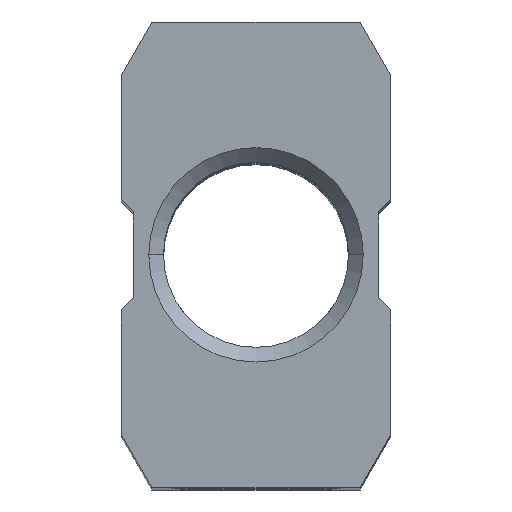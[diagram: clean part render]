
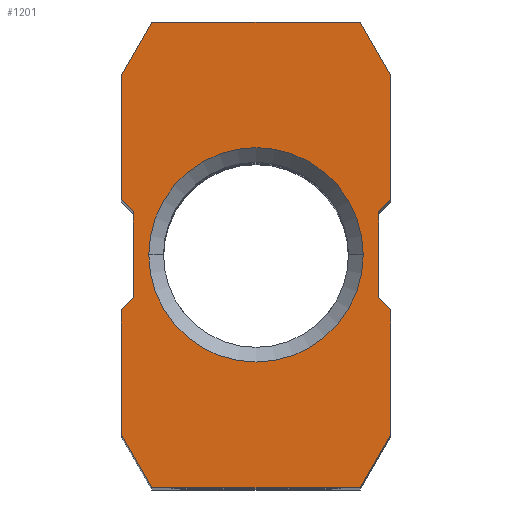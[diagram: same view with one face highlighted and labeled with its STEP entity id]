
A CAD part, top view. The second image highlights one B-rep face of the part: STEP entity #1201.
In plain terms, the highlighted planar face has unit normal (0, 0, 1).
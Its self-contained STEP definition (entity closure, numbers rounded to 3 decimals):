
#6 = AXIS2_PLACEMENT_3D ( 'NONE', #341, #1401, #2507 ) ;
#16 = VERTEX_POINT ( 'NONE', #40 ) ;
#28 = ORIENTED_EDGE ( 'NONE', *, *, #377, .T. ) ;
#30 = CARTESIAN_POINT ( 'NONE',  ( 11., 4.33, 0. ) ) ;
#40 = CARTESIAN_POINT ( 'NONE',  ( 8.5, 38., 0. ) ) ;
#42 = LINE ( 'NONE', #2384, #1710 ) ;
#55 = CARTESIAN_POINT ( 'NONE',  ( -11., 33.67, 0. ) ) ;
#73 = EDGE_CURVE ( 'NONE', #1665, #2037, #984, .T. ) ;
#80 = DIRECTION ( 'NONE',  ( -0.707, 0.707, 0. ) ) ;
#84 = CARTESIAN_POINT ( 'NONE',  ( -10., 15.5, 0. ) ) ;
#101 = DIRECTION ( 'NONE',  ( -0.5, -0.866, 0. ) ) ;
#110 = EDGE_CURVE ( 'NONE', #2386, #2072, #844, .T. ) ;
#150 = CARTESIAN_POINT ( 'NONE',  ( 11., 14.5, 0. ) ) ;
#183 = ORIENTED_EDGE ( 'NONE', *, *, #110, .T. ) ;
#300 = EDGE_CURVE ( 'NONE', #1704, #1965, #1661, .T. ) ;
#341 = CARTESIAN_POINT ( 'NONE',  ( 6.5, 19., 0. ) ) ;
#357 = EDGE_CURVE ( 'NONE', #694, #2620, #450, .T. ) ;
#369 = CARTESIAN_POINT ( 'NONE',  ( -11., 23.5, 0. ) ) ;
#377 = EDGE_CURVE ( 'NONE', #16, #1451, #381, .T. ) ;
#378 = DIRECTION ( 'NONE',  ( -1., 0., 0. ) ) ;
#381 = LINE ( 'NONE', #1022, #2112 ) ;
#382 = CARTESIAN_POINT ( 'NONE',  ( 10., 15.5, 0. ) ) ;
#385 = DIRECTION ( 'NONE',  ( 0., 1., 0. ) ) ;
#419 = VECTOR ( 'NONE', #1674, 1000. ) ;
#444 = CARTESIAN_POINT ( 'NONE',  ( -11., 4.33, 0. ) ) ;
#445 = EDGE_CURVE ( 'NONE', #1024, #2214, #1384, .T. ) ;
#450 = LINE ( 'NONE', #369, #2739 ) ;
#451 = CARTESIAN_POINT ( 'NONE',  ( -8.5, 38., 0. ) ) ;
#485 = LINE ( 'NONE', #1445, #419 ) ;
#525 = ORIENTED_EDGE ( 'NONE', *, *, #656, .T. ) ;
#590 = DIRECTION ( 'NONE',  ( 0., 1., 0. ) ) ;
#593 = AXIS2_PLACEMENT_3D ( 'NONE', #2309, #1004, #2527 ) ;
#627 = LINE ( 'NONE', #852, #1780 ) ;
#634 = ORIENTED_EDGE ( 'NONE', *, *, #357, .T. ) ;
#645 = CARTESIAN_POINT ( 'NONE',  ( -11., 23.5, 0. ) ) ;
#653 = FACE_OUTER_BOUND ( 'NONE', #876, .T. ) ;
#656 = EDGE_CURVE ( 'NONE', #2283, #1631, #1960, .T. ) ;
#694 = VERTEX_POINT ( 'NONE', #55 ) ;
#733 = CARTESIAN_POINT ( 'NONE',  ( -10., 15.5, 0. ) ) ;
#762 = VERTEX_POINT ( 'NONE', #1895 ) ;
#778 = CARTESIAN_POINT ( 'NONE',  ( -8.5, 0., 0. ) ) ;
#816 = ORIENTED_EDGE ( 'NONE', *, *, #1242, .T. ) ;
#830 = DIRECTION ( 'NONE',  ( 1., 0., 0. ) ) ;
#844 = LINE ( 'NONE', #733, #2079 ) ;
#852 = CARTESIAN_POINT ( 'NONE',  ( -11., 14.5, 0. ) ) ;
#871 = DIRECTION ( 'NONE',  ( -0.5, 0.866, 0. ) ) ;
#872 = CARTESIAN_POINT ( 'NONE',  ( 10., 22.5, 0. ) ) ;
#876 = EDGE_LOOP ( 'NONE', ( #2193, #2304, #2520, #28, #1653, #634, #879, #183, #1103, #2519, #525, #2800, #2486, #2189, #2095, #1365 ) ) ;
#879 = ORIENTED_EDGE ( 'NONE', *, *, #2186, .T. ) ;
#924 = VECTOR ( 'NONE', #101, 1000. ) ;
#984 = LINE ( 'NONE', #1600, #2146 ) ;
#995 = FACE_BOUND ( 'NONE', #2606, .T. ) ;
#1004 = DIRECTION ( 'NONE',  ( 0., 0., -1. ) ) ;
#1015 = EDGE_CURVE ( 'NONE', #1063, #1665, #2358, .T. ) ;
#1016 = VECTOR ( 'NONE', #385, 1000. ) ;
#1022 = CARTESIAN_POINT ( 'NONE',  ( 8.5, 38., 0. ) ) ;
#1024 = VERTEX_POINT ( 'NONE', #1110 ) ;
#1050 = CARTESIAN_POINT ( 'NONE',  ( -8.5, 0., 0. ) ) ;
#1063 = VERTEX_POINT ( 'NONE', #30 ) ;
#1077 = DIRECTION ( 'NONE',  ( 0.5, 0.866, 0. ) ) ;
#1103 = ORIENTED_EDGE ( 'NONE', *, *, #2267, .T. ) ;
#1110 = CARTESIAN_POINT ( 'NONE',  ( 11., 23.5, 0. ) ) ;
#1146 = CARTESIAN_POINT ( 'NONE',  ( 10., 22.5, 0. ) ) ;
#1154 = CIRCLE ( 'NONE', #593, 8.75 ) ;
#1156 = EDGE_CURVE ( 'NONE', #1451, #694, #1495, .T. ) ;
#1170 = CARTESIAN_POINT ( 'NONE',  ( 0., 19., 0. ) ) ;
#1183 = VECTOR ( 'NONE', #830, 1000. ) ;
#1201 = ADVANCED_FACE ( 'NONE', ( #995, #653 ), #2291, .T. ) ;
#1242 = EDGE_CURVE ( 'NONE', #1965, #1704, #1154, .T. ) ;
#1250 = DIRECTION ( 'NONE',  ( -0.707, -0.707, 0. ) ) ;
#1255 = LINE ( 'NONE', #1050, #1183 ) ;
#1272 = CARTESIAN_POINT ( 'NONE',  ( -11., 14.5, 0. ) ) ;
#1333 = VECTOR ( 'NONE', #1667, 1000. ) ;
#1357 = VECTOR ( 'NONE', #871, 1000. ) ;
#1365 = ORIENTED_EDGE ( 'NONE', *, *, #1690, .T. ) ;
#1368 = VECTOR ( 'NONE', #1979, 1000. ) ;
#1384 = LINE ( 'NONE', #2336, #1016 ) ;
#1385 = DIRECTION ( 'NONE',  ( 0., -1., 0. ) ) ;
#1396 = EDGE_CURVE ( 'NONE', #1631, #762, #1255, .T. ) ;
#1398 = DIRECTION ( 'NONE',  ( 1., 0., 0. ) ) ;
#1401 = DIRECTION ( 'NONE',  ( 0., 0., 1. ) ) ;
#1422 = VERTEX_POINT ( 'NONE', #1272 ) ;
#1445 = CARTESIAN_POINT ( 'NONE',  ( -11., 4.33, 0. ) ) ;
#1451 = VERTEX_POINT ( 'NONE', #451 ) ;
#1466 = EDGE_CURVE ( 'NONE', #2214, #16, #2016, .T. ) ;
#1495 = LINE ( 'NONE', #2061, #924 ) ;
#1560 = LINE ( 'NONE', #382, #2080 ) ;
#1600 = CARTESIAN_POINT ( 'NONE',  ( 11., 14.5, 0. ) ) ;
#1631 = VERTEX_POINT ( 'NONE', #778 ) ;
#1653 = ORIENTED_EDGE ( 'NONE', *, *, #1156, .T. ) ;
#1661 = CIRCLE ( 'NONE', #1929, 8.75 ) ;
#1665 = VERTEX_POINT ( 'NONE', #150 ) ;
#1667 = DIRECTION ( 'NONE',  ( 0.707, -0.707, 0. ) ) ;
#1674 = DIRECTION ( 'NONE',  ( 0., -1., 0. ) ) ;
#1689 = EDGE_CURVE ( 'NONE', #1422, #2283, #485, .T. ) ;
#1690 = EDGE_CURVE ( 'NONE', #2037, #2036, #1560, .T. ) ;
#1704 = VERTEX_POINT ( 'NONE', #2118 ) ;
#1710 = VECTOR ( 'NONE', #1077, 1000. ) ;
#1720 = ORIENTED_EDGE ( 'NONE', *, *, #300, .T. ) ;
#1762 = CARTESIAN_POINT ( 'NONE',  ( -10., 22.5, 0. ) ) ;
#1780 = VECTOR ( 'NONE', #1250, 1000. ) ;
#1895 = CARTESIAN_POINT ( 'NONE',  ( 8.5, 0., 0. ) ) ;
#1929 = AXIS2_PLACEMENT_3D ( 'NONE', #1170, #2693, #1398 ) ;
#1956 = DIRECTION ( 'NONE',  ( 0., 1., 0. ) ) ;
#1960 = LINE ( 'NONE', #2194, #1368 ) ;
#1965 = VERTEX_POINT ( 'NONE', #2453 ) ;
#1970 = CARTESIAN_POINT ( 'NONE',  ( 11., 33.67, 0. ) ) ;
#1979 = DIRECTION ( 'NONE',  ( 0.5, -0.866, 0. ) ) ;
#2016 = LINE ( 'NONE', #1970, #1357 ) ;
#2036 = VERTEX_POINT ( 'NONE', #1146 ) ;
#2037 = VERTEX_POINT ( 'NONE', #2042 ) ;
#2042 = CARTESIAN_POINT ( 'NONE',  ( 10., 15.5, 0. ) ) ;
#2061 = CARTESIAN_POINT ( 'NONE',  ( -11., 33.67, 0. ) ) ;
#2065 = LINE ( 'NONE', #872, #2629 ) ;
#2072 = VERTEX_POINT ( 'NONE', #84 ) ;
#2079 = VECTOR ( 'NONE', #1385, 1000. ) ;
#2080 = VECTOR ( 'NONE', #590, 1000. ) ;
#2095 = ORIENTED_EDGE ( 'NONE', *, *, #73, .T. ) ;
#2112 = VECTOR ( 'NONE', #378, 1000. ) ;
#2118 = CARTESIAN_POINT ( 'NONE',  ( 8.75, 19., 0. ) ) ;
#2122 = CARTESIAN_POINT ( 'NONE',  ( 11., 33.67, 0. ) ) ;
#2146 = VECTOR ( 'NONE', #80, 1000. ) ;
#2185 = DIRECTION ( 'NONE',  ( 0.707, 0.707, 0. ) ) ;
#2186 = EDGE_CURVE ( 'NONE', #2620, #2386, #2496, .T. ) ;
#2189 = ORIENTED_EDGE ( 'NONE', *, *, #1015, .T. ) ;
#2193 = ORIENTED_EDGE ( 'NONE', *, *, #2313, .T. ) ;
#2194 = CARTESIAN_POINT ( 'NONE',  ( -8.5, 0., 0. ) ) ;
#2214 = VERTEX_POINT ( 'NONE', #2122 ) ;
#2267 = EDGE_CURVE ( 'NONE', #2072, #1422, #627, .T. ) ;
#2274 = EDGE_CURVE ( 'NONE', #762, #1063, #42, .T. ) ;
#2283 = VERTEX_POINT ( 'NONE', #444 ) ;
#2289 = VECTOR ( 'NONE', #1956, 1000. ) ;
#2291 = PLANE ( 'NONE',  #6 ) ;
#2304 = ORIENTED_EDGE ( 'NONE', *, *, #445, .T. ) ;
#2309 = CARTESIAN_POINT ( 'NONE',  ( 0., 19., 0. ) ) ;
#2313 = EDGE_CURVE ( 'NONE', #2036, #1024, #2065, .T. ) ;
#2336 = CARTESIAN_POINT ( 'NONE',  ( 11., 23.5, 0. ) ) ;
#2358 = LINE ( 'NONE', #2597, #2289 ) ;
#2384 = CARTESIAN_POINT ( 'NONE',  ( 8.5, 0., 0. ) ) ;
#2386 = VERTEX_POINT ( 'NONE', #1762 ) ;
#2453 = CARTESIAN_POINT ( 'NONE',  ( -8.75, 19., 0. ) ) ;
#2486 = ORIENTED_EDGE ( 'NONE', *, *, #2274, .T. ) ;
#2496 = LINE ( 'NONE', #2747, #1333 ) ;
#2507 = DIRECTION ( 'NONE',  ( 1., 0., 0. ) ) ;
#2519 = ORIENTED_EDGE ( 'NONE', *, *, #1689, .T. ) ;
#2520 = ORIENTED_EDGE ( 'NONE', *, *, #1466, .T. ) ;
#2527 = DIRECTION ( 'NONE',  ( 1., 0., 0. ) ) ;
#2597 = CARTESIAN_POINT ( 'NONE',  ( 11., 4.33, 0. ) ) ;
#2606 = EDGE_LOOP ( 'NONE', ( #1720, #816 ) ) ;
#2620 = VERTEX_POINT ( 'NONE', #645 ) ;
#2629 = VECTOR ( 'NONE', #2185, 1000. ) ;
#2693 = DIRECTION ( 'NONE',  ( 0., 0., -1. ) ) ;
#2730 = DIRECTION ( 'NONE',  ( 0., -1., 0. ) ) ;
#2739 = VECTOR ( 'NONE', #2730, 1000. ) ;
#2747 = CARTESIAN_POINT ( 'NONE',  ( -10., 22.5, 0. ) ) ;
#2800 = ORIENTED_EDGE ( 'NONE', *, *, #1396, .T. ) ;
